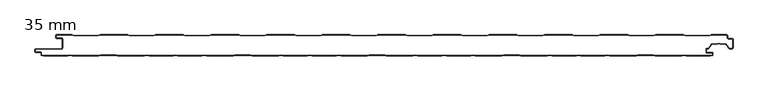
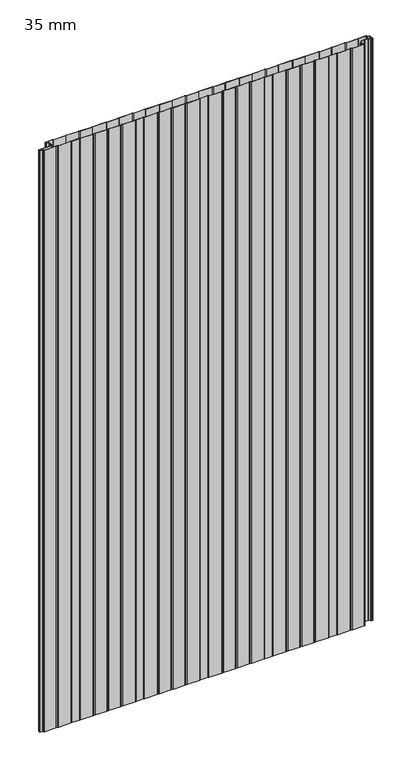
"""IFC4 building model written with IfcOpenShell, lengths in millimetres: plate geometry, HIANSA PANEL - H20.F02.002-PANELES DE FACHADA VERTICAL - PANEL PERFILADO - Panel de Muro Cortina : 35 mm."""

import ifcopenshell
import ifcopenshell.guid

model = None  # the IFC model being written
_history = None  # IfcOwnerHistory: only IFC2X3 demands one
_inside = {}  # id of a spatial element -> (the spatial element, [elements in it])
_under = {}  # id of a project, library or spatial element -> (it, [spatial elements below it])
_declared = {}  # id of a project -> (the project, [libraries it declares])
_typed = {}  # id of a type object -> (the type object, [elements of that type])
_made_of = {}  # id of a material, layer set ... -> (it, [elements and type objects made of it])


def new_model(schema):
    """Start an empty IFC model of exactly this schema.

    Asked for "IFC4X3", IfcOpenShell would pick the latest addendum, in which some entities
    have other attributes; the version numbers below select the first issue.
    IFC2X3 requires an IfcOwnerHistory on every rooted entity: one is made here for all.
    """
    global model, _history
    if schema == "IFC4X3":
        model = ifcopenshell.file(schema_version=(4, 3, 0, 0))
    else:
        model = ifcopenshell.file(schema=schema)
    _inside.clear()
    _under.clear()
    _declared.clear()
    _typed.clear()
    _made_of.clear()
    _history = None
    if model.schema == "IFC2X3":
        org = make("IfcOrganization", Name="unknown")
        user = make(
            "IfcPersonAndOrganization",
            ThePerson=make("IfcPerson", FamilyName="unknown"),
            TheOrganization=org,
        )
        app = make(
            "IfcApplication",
            ApplicationDeveloper=org,
            Version="unknown",
            ApplicationFullName="unknown",
            ApplicationIdentifier="unknown",
        )
        _history = make(
            "IfcOwnerHistory",
            OwningUser=user,
            OwningApplication=app,
            ChangeAction="ADDED",
            CreationDate=0,
        )
    return model


def make(cls, **values):
    """One entity of the class cls with the attributes given. An attribute that is None is left unset."""
    return model.create_entity(
        cls, **{name: value for name, value in values.items() if value is not None}
    )


def rooted(cls, **values):
    """An entity with a GlobalId (a new one), such as an element, a storey or a relation."""
    return make(cls, GlobalId=ifcopenshell.guid.new(), OwnerHistory=_history, **values)


def si_unit(unit_type, name, prefix=None):
    """IfcSIUnit, for example si_unit("LENGTHUNIT", "METRE", prefix="MILLI")."""
    return make("IfcSIUnit", UnitType=unit_type, Prefix=prefix, Name=name)


def assignment(units):
    """IfcUnitAssignment: the units of a project."""
    return None if units is None else make("IfcUnitAssignment", Units=units)


def point(xyz):
    """IfcCartesianPoint."""
    return None if xyz is None else make("IfcCartesianPoint", Coordinates=xyz)


def direction(xyz):
    """IfcDirection."""
    return None if xyz is None else make("IfcDirection", DirectionRatios=xyz)


def frame(location, z_axis=None, x_axis=None):
    """IfcAxis2Placement3D, a coordinate frame: its origin and axes. An axis left out is left unset."""
    return make(
        "IfcAxis2Placement3D",
        Location=point(location),
        Axis=direction(z_axis),
        RefDirection=direction(x_axis),
    )


def frame_2d(location, x_axis=None):
    """IfcAxis2Placement2D, a coordinate frame in the plane: its origin and x axis."""
    return make(
        "IfcAxis2Placement2D", Location=point(location), RefDirection=direction(x_axis)
    )


def origin():
    """The frame at (0, 0, 0) with its axes left unset."""
    return frame((0.0, 0.0, 0.0))


def origin_with_axes():
    """The frame at (0, 0, 0) with the z axis (0, 0, 1) and the x axis (1, 0, 0) written out."""
    return frame((0.0, 0.0, 0.0), z_axis=(0.0, 0.0, 1.0), x_axis=(1.0, 0.0, 0.0))


def place(relative_to, where):
    """IfcLocalPlacement: puts the frame where relative to a parent placement (None: the world)."""
    return make(
        "IfcLocalPlacement", PlacementRelTo=relative_to, RelativePlacement=where
    )


def context(
    kind, dimensions, precision=None, world=None, true_north=None, identifier=None
):
    """IfcGeometricRepresentationContext, for example the 3D "Model" context."""
    return make(
        "IfcGeometricRepresentationContext",
        ContextIdentifier=identifier,
        ContextType=kind,
        CoordinateSpaceDimension=dimensions,
        Precision=precision,
        WorldCoordinateSystem=world,
        TrueNorth=true_north,
    )


def project(units=None, contexts=None):
    """IfcProject with its units and contexts."""
    return rooted(
        "IfcProject",
        Name="project",
        RepresentationContexts=contexts,
        UnitsInContext=assignment(units),
    )


def spatial(cls, under=None, at=None, **own):
    """A site, building, storey or space (cls), placed at a placement, below another one or the project."""
    s = rooted(cls, ObjectPlacement=at, **own)
    if under is not None:
        _under.setdefault(under.id(), (under, []))[1].append(s)
    return s


def polyline(points):
    """IfcPolyline through the points."""
    return make("IfcPolyline", Points=[point(p) for p in points])


def circle_curve(where, radius):
    """IfcCircle in the frame where."""
    return make("IfcCircle", Position=where, Radius=radius)


def trimmed(basis, trim1, trim2, sense, master):
    """IfcTrimmedCurve: the piece of a basis curve between two trims."""
    return make(
        "IfcTrimmedCurve",
        BasisCurve=basis,
        Trim1=trim1,
        Trim2=trim2,
        SenseAgreement=sense,
        MasterRepresentation=master,
    )


def segment(curve, same_sense, transition):
    """IfcCompositeCurveSegment."""
    return make(
        "IfcCompositeCurveSegment",
        Transition=transition,
        SameSense=same_sense,
        ParentCurve=curve,
    )


def composite_curve(segments, self_intersect=None):
    """IfcCompositeCurve: segments joined end to end."""
    return make("IfcCompositeCurve", Segments=segments, SelfIntersect=self_intersect)


def outline(outer, holes=None, kind="AREA"):
    """IfcArbitraryClosedProfileDef: a profile drawn as a closed curve; with holes, ...WithVoids."""
    if holes is None:
        return make("IfcArbitraryClosedProfileDef", ProfileType=kind, OuterCurve=outer)
    return make(
        "IfcArbitraryProfileDefWithVoids",
        ProfileType=kind,
        OuterCurve=outer,
        InnerCurves=holes,
    )


def extrude(swept, where, along, depth):
    """IfcExtrudedAreaSolid: the profile swept, set in the frame where, extruded along a direction by depth."""
    return make(
        "IfcExtrudedAreaSolid",
        SweptArea=swept,
        Position=where,
        ExtrudedDirection=direction(along),
        Depth=depth,
    )


def shape(context_of_items, identifier, shape_type, items):
    """IfcShapeRepresentation: the items that make up one representation, for example the "Body"."""
    return make(
        "IfcShapeRepresentation",
        ContextOfItems=context_of_items,
        RepresentationIdentifier=identifier,
        RepresentationType=shape_type,
        Items=items,
    )


def source(mapping_origin, context_of_items, identifier, shape_type, items):
    """IfcRepresentationMap: a shape defined once, which mapped items show again and again."""
    return make(
        "IfcRepresentationMap",
        MappingOrigin=mapping_origin,
        MappedRepresentation=shape(context_of_items, identifier, shape_type, items),
    )


def transform(
    local_origin,
    x_axis=None,
    y_axis=None,
    z_axis=None,
    scale=None,
    scale2=None,
    scale3=None,
    uniform=True,
):
    """IfcCartesianTransformationOperator3D, or its non-uniform kind. x_axis, y_axis, z_axis: its Axis1, 2, 3."""
    if uniform:
        return make(
            "IfcCartesianTransformationOperator3D",
            Axis1=direction(x_axis),
            Axis2=direction(y_axis),
            LocalOrigin=point(local_origin),
            Scale=scale,
            Axis3=direction(z_axis),
        )
    return make(
        "IfcCartesianTransformationOperator3DnonUniform",
        Axis1=direction(x_axis),
        Axis2=direction(y_axis),
        LocalOrigin=point(local_origin),
        Scale=scale,
        Axis3=direction(z_axis),
        Scale2=scale2,
        Scale3=scale3,
    )


def mapped(mapping_source, mapping_target):
    """IfcMappedItem: shows the shape of a source again, moved by a transform."""
    return make(
        "IfcMappedItem", MappingSource=mapping_source, MappingTarget=mapping_target
    )


def made_of(thing, what):
    """Note that an element or type object is made of a material, layer set ...; save() writes the relation."""
    if what is not None:
        _made_of.setdefault(what.id(), (what, []))[1].append(thing)
    return thing


def element(
    cls,
    number,
    at=None,
    inside=None,
    cuts=None,
    type_object=None,
    material=None,
    context=None,
    identifier="Body",
    shape_type=None,
    held_by="IfcProductDefinitionShape",
    body=None,
    shapes=None,
    **own,
):
    """One element of the class cls, such as IfcWall. Its Tag is "e" and its number.

    at: its placement. inside: the storey or other place that contains it. cuts: it is an
    opening in that element (IfcRelVoidsElement). A single representation is given by context,
    identifier, shape_type and body (its items); several are given by shapes. held_by: the class
    of the entity that holds the representations. save() writes the other relations.
    """
    e = rooted(cls, Tag="e%d" % number, ObjectPlacement=at, **own)
    if body is not None:
        shapes = [shape(context, identifier, shape_type, body)]
    if shapes is not None:
        e.Representation = make(held_by, Representations=shapes)
    if inside is not None:
        _inside.setdefault(inside.id(), (inside, []))[1].append(e)
    if cuts is not None:
        rooted(
            "IfcRelVoidsElement", RelatingBuildingElement=cuts, RelatedOpeningElement=e
        )
    if type_object is not None:
        _typed.setdefault(type_object.id(), (type_object, []))[1].append(e)
    return made_of(e, material)


def aggregate(whole, parts):
    """IfcRelAggregates: a whole, such as a stair, and the parts it consists of."""
    return rooted("IfcRelAggregates", RelatingObject=whole, RelatedObjects=parts)


def save(model, path):
    """Write the relations noted so far, then the file.

    IfcRelAggregates (storeys below a building ...), IfcRelContainedInSpatialStructure (elements
    in a storey), IfcRelDefinesByType, IfcRelAssociatesMaterial and IfcRelDeclares: one each for
    every whole, place, type object, material and project.
    """
    for whole, parts in _under.values():
        aggregate(whole, parts)
    for where, things in _inside.values():
        rooted(
            "IfcRelContainedInSpatialStructure",
            RelatedElements=things,
            RelatingStructure=where,
        )
    for kind, things in _typed.values():
        rooted("IfcRelDefinesByType", RelatedObjects=things, RelatingType=kind)
    for what, things in _made_of.values():
        rooted("IfcRelAssociatesMaterial", RelatedObjects=things, RelatingMaterial=what)
    for by, libraries in _declared.values():
        rooted("IfcRelDeclares", RelatingContext=by, RelatedDefinitions=libraries)
    model.write(path)


def plate_35_mm_552d9d67(model_context):
    return source(origin(), model_context, "Body", "SweptSolid", [
        extrude(outline(polyline([(573.0810465, -18.7821941), (573.0810465, -12.9009472), (573.5810465, -13.7002592), (573.5810465, -18.010534), (573.0810465, -18.7821941)])), origin_with_axes(), (0.0, 0.0, 1.0), 2100.0),
        extrude(outline(polyline([(-524.3789535, -12.9205789), (-524.3789535, -18.8267994), (-524.8789535, -18.010534), (-524.8789535, -13.7002592), (-524.3789535, -12.9205789)])), origin_with_axes(), (0.0, 0.0, 1.0), 2100.0),
        extrude(outline(composite_curve([segment(polyline([(-506.0322682, -0.9999995), (-466.0322682, -0.9999995), (-463.0322682, 5e-07), (-418.0322682, 5e-07), (-415.0322682, -0.9999995), (-375.0322682, -0.9999995), (-372.0322682, 5e-07), (-327.0322682, 5e-07), (-324.0322682, -0.9999995), (-284.0322682, -0.9999995), (-281.0322682, 5e-07), (-236.0322682, 5e-07), (-233.0322682, -0.9999995), (-193.0322682, -0.9999995), (-190.0322682, 5e-07), (-145.0322682, 5e-07), (-142.0322682, -0.9999995), (-102.0322682, -0.9999995), (-99.0322682, 5e-07), (-54.0322682, 5e-07), (-51.0322682, -0.9999995), (-11.0322682, -0.9999995), (-8.0322682, 5e-07), (36.9677318, 5e-07), (39.9677318, -0.9999995), (79.9677318, -0.9999995), (82.9677318, 5e-07), (127.9677318, 5e-07), (130.9677318, -0.9999995), (170.9677318, -0.9999995), (173.9677318, 5e-07), (218.9677318, 5e-07), (221.9677318, -0.9999995), (261.9677318, -0.9999995), (264.9677318, 5e-07), (309.9677318, 5e-07), (312.9677318, -0.9999995), (352.9677318, -0.9999995), (355.9677318, 5e-07), (400.9677318, 5e-07), (403.9677318, -0.9999995), (443.9677318, -0.9999995), (446.9677318, 5e-07), (491.9677318, 5e-07), (494.9677318, -0.9999995), (534.9677318, -0.9999995), (537.9677318, 5e-07), (562.9277318, 5e-07)]), True, "CONTINUOUS"), segment(trimmed(circle_curve(frame_2d((562.9277318, -1.4999995)), 1.5), [point((562.9277318, 5e-07))], [point((564.4277318, -1.5000018))], False, "CARTESIAN"), True, "CONTINUOUS"), segment(polyline([(564.4277318, -1.5000018), (564.4277269, -4.746003)]), True, "CONTINUOUS"), segment(trimmed(circle_curve(frame_2d((565.9317269, -4.7460053)), 1.504), [point((564.4277269, -4.746003))], [point((565.9317269, -6.2500053))], True, "CARTESIAN"), True, "CONTINUOUS"), segment(polyline([(565.9317269, -6.2500053), (572.0810464, -6.2500053)]), True, "CONTINUOUS"), segment(trimmed(circle_curve(frame_2d((572.0810464, -7.7500053)), 1.5), [point((572.0810464, -6.2500053))], [point((573.5810464, -7.7500053))], False, "CARTESIAN"), True, "CONTINUOUS"), segment(polyline([(573.5810464, -7.7500053), (573.5810464, -13.7002592), (573.0810464, -12.9009472), (573.0810464, -7.7499995)]), True, "CONTINUOUS"), segment(trimmed(circle_curve(frame_2d((572.0810464, -7.7499995)), 1.0), [point((573.0810464, -7.7499995))], [point((572.0810464, -6.7499995))], True, "CARTESIAN"), True, "CONTINUOUS"), segment(polyline([(572.0810464, -6.7499995), (565.9317318, -6.7499995)]), True, "CONTINUOUS"), segment(trimmed(circle_curve(frame_2d((565.9317318, -4.7459995)), 2.004), [point((565.9317318, -6.7499995))], [point((563.9277318, -4.7459995))], False, "CARTESIAN"), True, "CONTINUOUS"), segment(polyline([(563.9277318, -4.7459995), (563.9277318, -1.4999995)]), True, "CONTINUOUS"), segment(trimmed(circle_curve(frame_2d((562.9277318, -1.4999995)), 1.0), [point((563.9277318, -1.4999995))], [point((562.9277318, -0.4999995))], True, "CARTESIAN"), True, "CONTINUOUS"), segment(polyline([(562.9277318, -0.4999995), (538.0488706, -0.4999995), (535.0488706, -1.4999995), (494.8865929, -1.4999995), (491.8865929, -0.4999995), (447.0488706, -0.4999995), (444.0488706, -1.4999995), (403.8865929, -1.4999995), (400.8865929, -0.4999995), (356.0488706, -0.4999995), (353.0488706, -1.4999995), (312.8865929, -1.4999995), (309.8865929, -0.4999995), (265.0488706, -0.4999995), (262.0488706, -1.4999995), (221.8865929, -1.4999995), (218.8865929, -0.4999995), (174.0488706, -0.4999995), (171.0488706, -1.4999995), (130.8865929, -1.4999995), (127.8865929, -0.4999995), (83.0488706, -0.4999995), (80.0488706, -1.4999995), (39.8865929, -1.4999995), (36.8865929, -0.4999995), (-7.9511294, -0.4999995), (-10.9511294, -1.4999995), (-51.1134071, -1.4999995), (-54.1134071, -0.4999995), (-98.9511294, -0.4999995), (-101.9511294, -1.4999995), (-142.1134071, -1.4999995), (-145.1134071, -0.4999995), (-189.9511294, -0.4999995), (-192.9511294, -1.4999995), (-233.1134071, -1.4999995), (-236.1134071, -0.4999995), (-280.9511294, -0.4999995), (-283.9511294, -1.4999995), (-324.1134071, -1.4999995), (-327.1134071, -0.4999995), (-371.9511294, -0.4999995), (-374.9511294, -1.4999995), (-415.1134071, -1.4999995), (-418.1134071, -0.4999995), (-462.9511294, -0.4999995), (-465.9511294, -1.4999995), (-506.1134071, -1.4999995), (-509.1134071, -0.4999995), (-534.0322682, -0.4999995)]), True, "CONTINUOUS"), segment(trimmed(circle_curve(frame_2d((-534.0322682, -1.4999995)), 1.0), [point((-534.0322682, -0.4999995))], [point((-535.0322682, -1.4999976))], True, "CARTESIAN"), True, "CONTINUOUS"), segment(polyline([(-535.0322682, -1.4999976), (-535.0322739, -4.4999976)]), True, "CONTINUOUS"), segment(trimmed(circle_curve(frame_2d((-534.0322682, -4.4999995)), 1.0000057), [point((-535.0322739, -4.4999976))], [point((-534.0322682, -5.5000053))], True, "CARTESIAN"), True, "CONTINUOUS"), segment(polyline([(-534.0322682, -5.5000053), (-526.4189536, -5.5000053)]), True, "CONTINUOUS"), segment(trimmed(circle_curve(frame_2d((-526.4189536, -7.5400053)), 2.04), [point((-526.4189536, -5.5000053))], [point((-524.3789536, -7.5400053))], False, "CARTESIAN"), True, "CONTINUOUS"), segment(polyline([(-524.3789536, -7.5400053), (-524.3789536, -12.9205789), (-524.8789536, -13.7002592), (-524.8789536, -7.5399995)]), True, "CONTINUOUS"), segment(trimmed(circle_curve(frame_2d((-526.4189536, -7.5399995)), 1.54), [point((-524.8789536, -7.5399995))], [point((-526.4189536, -5.9999995))], True, "CARTESIAN"), True, "CONTINUOUS"), segment(polyline([(-526.4189536, -5.9999995), (-534.0322682, -5.9999995)]), True, "CONTINUOUS"), segment(trimmed(circle_curve(frame_2d((-534.0322682, -4.4999995)), 1.5), [point((-534.0322682, -5.9999995))], [point((-535.5322682, -4.4999995))], False, "CARTESIAN"), True, "CONTINUOUS"), segment(polyline([(-535.5322682, -4.4999995), (-535.5322682, -1.4999995)]), True, "CONTINUOUS"), segment(trimmed(circle_curve(frame_2d((-534.0322682, -1.4999995)), 1.5), [point((-535.5322682, -1.4999995))], [point((-534.0322682, 5e-07))], False, "CARTESIAN"), True, "CONTINUOUS"), segment(polyline([(-534.0322682, 5e-07), (-509.0322682, 5e-07), (-506.0322682, -0.9999995)]), True, "CONTINUOUS")], self_intersect=False)), origin_with_axes(), (0.0, 0.0, 1.0), 2100.0),
        extrude(outline(composite_curve([segment(polyline([(-526.9188291, -23.8776596), (-569.2000002, -23.8776596), (-569.2000002, -28.6276596), (-560.5344902, -28.6276596)]), True, "CONTINUOUS"), segment(trimmed(circle_curve(frame_2d((-560.5344902, -30.1276596)), 1.5), [point((-560.5344902, -28.6276596))], [point((-559.0344902, -30.1276596))], False, "CARTESIAN"), True, "CONTINUOUS"), segment(polyline([(-559.0344902, -30.1276596), (-559.0344902, -32.5178943)]), True, "CONTINUOUS"), segment(trimmed(circle_curve(frame_2d((-557.6355327, -32.5178943)), 1.3989577), [point((-559.0344902, -32.5178943))], [point((-557.9748298, -33.8750826))], True, "CARTESIAN"), True, "CONTINUOUS"), segment(polyline([(-557.9748298, -33.8750826), (-555.4751594, -34.5), (-516.3760428, -34.5), (-512.31449, -33.4846118), (-508.2529372, -34.5), (-465.1734067, -34.5), (-462.1734067, -33.5), (-436.899129, -33.5), (-433.899129, -34.5), (-390.8195984, -34.5), (-386.7580456, -33.4846118), (-382.6964928, -34.5), (-343.5973762, -34.5), (-339.5358234, -33.4846118), (-335.4742706, -34.5), (-296.375154, -34.5), (-292.3136012, -33.4846118), (-288.2520484, -34.5), (-245.1725179, -34.5), (-242.1725179, -33.5), (-216.8982402, -33.5), (-213.8982402, -34.5), (-170.8187096, -34.5), (-166.7571568, -33.4846118), (-162.695604, -34.5), (-123.5964874, -34.5), (-119.5349346, -33.4846118), (-115.4733818, -34.5), (-76.3742652, -34.5), (-72.3127124, -33.4846118), (-68.2511596, -34.5), (-25.1716291, -34.5), (-22.1716291, -33.5), (3.1026486, -33.5), (6.1026486, -34.5), (49.1821792, -34.5), (53.243732, -33.4846118), (57.3052848, -34.5), (96.4044014, -34.5), (100.4659542, -33.4846118), (104.527507, -34.5), (143.6266236, -34.5), (147.6881764, -33.4846118), (151.7497292, -34.5), (194.8292597, -34.5), (197.8292597, -33.5), (223.1035374, -33.5), (226.1035374, -34.5), (269.183068, -34.5), (273.2446208, -33.4846118), (277.3061736, -34.5), (316.4052902, -34.5), (320.466843, -33.4846118), (324.5283958, -34.5), (363.6275124, -34.5), (367.6890652, -33.4846118), (371.750618, -34.5), (414.8301485, -34.5), (417.8301485, -33.5), (443.1044262, -33.5), (446.1044262, -34.5), (489.1839568, -34.5), (493.2455096, -33.4846118), (497.3070624, -34.5), (536.406179, -34.5), (538.9050596, -33.8752798)]), True, "CONTINUOUS"), segment(trimmed(circle_curve(frame_2d((538.5655098, -32.5170803)), 1.4), [point((538.9050596, -33.8752798))], [point((539.9655098, -32.5170803))], True, "CARTESIAN"), True, "CONTINUOUS"), segment(polyline([(539.9655098, -32.5170803), (539.9655098, -29.8776596), (530.7999998, -29.8776596)]), True, "CONTINUOUS"), segment(trimmed(circle_curve(frame_2d((530.7999998, -28.3776596)), 1.5), [point((530.7999998, -29.8776596))], [point((529.2999998, -28.3776596))], False, "CARTESIAN"), True, "CONTINUOUS"), segment(polyline([(529.2999998, -28.3776596), (529.2999998, -24.1276596)]), True, "CONTINUOUS"), segment(trimmed(circle_curve(frame_2d((530.7999998, -24.1276596)), 1.5), [point((529.2999998, -24.1276596))], [point((530.7999998, -22.6276596))], False, "CARTESIAN"), True, "CONTINUOUS"), segment(polyline([(530.7999998, -22.6276596), (532.401303, -22.6276596)]), True, "CONTINUOUS"), segment(trimmed(circle_curve(frame_2d((532.401303, -21.1276596)), 1.5), [point((532.401303, -22.6276596))], [point((533.630031, -21.9880243))], True, "CARTESIAN"), True, "CONTINUOUS"), segment(polyline([(533.630031, -21.9880243), (537.8715505, -15.9305067)]), True, "CONTINUOUS"), segment(trimmed(circle_curve(frame_2d((539.5098546, -17.0776596)), 2.0), [point((537.8715505, -15.9305067))], [point((539.5098546, -15.0776596))], False, "CARTESIAN"), True, "CONTINUOUS"), segment(polyline([(539.5098546, -15.0776596), (548.6071795, -15.0776596), (549.7999998, -14.3889845)]), True, "CONTINUOUS"), segment(trimmed(circle_curve(frame_2d((550.2999998, -15.2550099)), 1.0), [point((549.7999998, -14.3889845))], [point((550.7999998, -14.3889845))], False, "CARTESIAN"), True, "CONTINUOUS"), segment(polyline([(550.7999998, -14.3889845), (551.9928202, -15.0776596), (561.0901451, -15.0776596)]), True, "CONTINUOUS"), segment(trimmed(circle_curve(frame_2d((561.0901451, -17.0776596)), 2.0), [point((561.0901451, -15.0776596))], [point((562.7284492, -15.9305067))], False, "CARTESIAN"), True, "CONTINUOUS"), segment(polyline([(562.7284492, -15.9305067), (566.9699686, -21.9880243)]), True, "CONTINUOUS"), segment(trimmed(circle_curve(frame_2d((568.1986967, -21.1276596)), 1.5), [point((566.9699686, -21.9880243))], [point((568.1986967, -22.6276596))], True, "CARTESIAN"), True, "CONTINUOUS"), segment(polyline([(568.1986967, -22.6276596), (571.5810464, -22.6276596)]), True, "CONTINUOUS"), segment(trimmed(circle_curve(frame_2d((571.5810464, -21.1276596)), 1.5), [point((571.5810464, -22.6276596))], [point((573.0810464, -21.1276596))], True, "CARTESIAN"), True, "CONTINUOUS"), segment(polyline([(573.0810464, -21.1276596), (573.0810464, -18.7821941), (573.5810464, -18.010534), (573.5810464, -21.1276596)]), True, "CONTINUOUS"), segment(trimmed(circle_curve(frame_2d((571.5810464, -21.1276596)), 2.0), [point((573.5810464, -21.1276596))], [point((571.5810464, -23.1276596))], False, "CARTESIAN"), True, "CONTINUOUS"), segment(polyline([(571.5810464, -23.1276596), (568.1986967, -23.1276596)]), True, "CONTINUOUS"), segment(trimmed(circle_curve(frame_2d((568.1986967, -21.1276596)), 2.0), [point((568.1986967, -23.1276596))], [point((566.5603926, -22.2748125))], False, "CARTESIAN"), True, "CONTINUOUS"), segment(polyline([(566.5603926, -22.2748125), (562.3188732, -16.2172949)]), True, "CONTINUOUS"), segment(trimmed(circle_curve(frame_2d((561.0901451, -17.0776596)), 1.5), [point((562.3188732, -16.2172949))], [point((561.0901451, -15.5776596))], True, "CARTESIAN"), True, "CONTINUOUS"), segment(polyline([(561.0901451, -15.5776596), (551.8588456, -15.5776596), (550.2999998, -14.6776596), (548.7411541, -15.5776596), (539.5098546, -15.5776596)]), True, "CONTINUOUS"), segment(trimmed(circle_curve(frame_2d((539.5098546, -17.0776596)), 1.5), [point((539.5098546, -15.5776596))], [point((538.2811265, -16.2172949))], True, "CARTESIAN"), True, "CONTINUOUS"), segment(polyline([(538.2811265, -16.2172949), (534.0396071, -22.2748125)]), True, "CONTINUOUS"), segment(trimmed(circle_curve(frame_2d((532.401303, -21.1276596)), 2.0), [point((534.0396071, -22.2748125))], [point((532.401303, -23.1276596))], False, "CARTESIAN"), True, "CONTINUOUS"), segment(polyline([(532.401303, -23.1276596), (530.7999998, -23.1276596)]), True, "CONTINUOUS"), segment(trimmed(circle_curve(frame_2d((530.7999998, -24.1276596)), 1.0), [point((530.7999998, -23.1276596))], [point((529.7999998, -24.1276596))], True, "CARTESIAN"), True, "CONTINUOUS"), segment(polyline([(529.7999998, -24.1276596), (529.7999998, -28.3776596)]), True, "CONTINUOUS"), segment(trimmed(circle_curve(frame_2d((530.7999998, -28.3776596)), 1.0), [point((529.7999998, -28.3776596))], [point((530.7999998, -29.3776596))], True, "CARTESIAN"), True, "CONTINUOUS"), segment(polyline([(530.7999998, -29.3776596), (539.4655098, -29.3776596)]), True, "CONTINUOUS"), segment(trimmed(circle_curve(frame_2d((539.4655098, -30.3776596)), 1.0), [point((539.4655098, -29.3776596))], [point((540.4655098, -30.3776596))], False, "CARTESIAN"), True, "CONTINUOUS"), segment(polyline([(540.4655098, -30.3776596), (540.4655098, -32.5170803)]), True, "CONTINUOUS"), segment(trimmed(circle_curve(frame_2d((538.5655098, -32.5170803)), 1.9), [point((540.4655098, -32.5170803))], [point((539.0263275, -34.3603511))], False, "CARTESIAN"), True, "CONTINUOUS"), segment(polyline([(539.0263275, -34.3603511), (536.4677318, -35.0), (497.2455096, -35.0), (493.2455096, -34.0), (489.2455096, -35.0), (446.0232874, -35.0), (443.0232874, -34.0), (417.9112874, -34.0), (414.9112874, -35.0), (371.6890652, -35.0), (367.6890652, -34.0), (363.6890652, -35.0), (324.466843, -35.0), (320.466843, -34.0), (316.466843, -35.0), (277.2446208, -35.0), (273.2446208, -34.0), (269.2446208, -35.0), (226.0223986, -35.0), (223.0223986, -34.0), (197.9103986, -34.0), (194.9103986, -35.0), (151.6881764, -35.0), (147.6881764, -34.0), (143.6881764, -35.0), (104.4659542, -35.0), (100.4659542, -34.0), (96.4659542, -35.0), (57.243732, -35.0), (53.243732, -34.0), (49.243732, -35.0), (6.0215098, -35.0), (3.0215098, -34.0), (-22.0904902, -34.0), (-25.0904902, -35.0), (-68.3127124, -35.0), (-72.3127124, -34.0), (-76.3127124, -35.0), (-115.5349346, -35.0), (-119.5349346, -34.0), (-123.5349346, -35.0), (-162.7571568, -35.0), (-166.7571568, -34.0), (-170.7571568, -35.0), (-213.979379, -35.0), (-216.979379, -34.0), (-242.091379, -34.0), (-245.091379, -35.0), (-288.3136012, -35.0), (-292.3136012, -34.0), (-296.3136012, -35.0), (-335.5358234, -35.0), (-339.5358234, -34.0), (-343.5358234, -35.0), (-382.7580456, -35.0), (-386.7580456, -34.0), (-390.7580456, -35.0), (-433.9802678, -35.0), (-436.9802678, -34.0), (-462.0922678, -34.0), (-465.0922678, -35.0), (-508.31449, -35.0), (-512.31449, -34.0), (-516.31449, -35.0), (-555.5367122, -35.0), (-558.0951211, -34.3603978)]), True, "CONTINUOUS"), segment(trimmed(circle_curve(frame_2d((-557.6342435, -32.5168877)), 1.9002467), [point((-558.0951211, -34.3603978))], [point((-559.5344902, -32.5168877))], False, "CARTESIAN"), True, "CONTINUOUS"), segment(polyline([(-559.5344902, -32.5168877), (-559.5344902, -30.1276596)]), True, "CONTINUOUS"), segment(trimmed(circle_curve(frame_2d((-560.5344902, -30.1276596)), 1.0), [point((-559.5344902, -30.1276596))], [point((-560.5344902, -29.1276596))], True, "CARTESIAN"), True, "CONTINUOUS"), segment(polyline([(-560.5344902, -29.1276596), (-568.7000002, -29.1276596)]), True, "CONTINUOUS"), segment(trimmed(circle_curve(frame_2d((-568.7000002, -28.1276596)), 1.0), [point((-568.7000002, -29.1276596))], [point((-569.7000002, -28.1276596))], False, "CARTESIAN"), True, "CONTINUOUS"), segment(polyline([(-569.7000002, -28.1276596), (-569.7000002, -24.3776596)]), True, "CONTINUOUS"), segment(trimmed(circle_curve(frame_2d((-568.7000002, -24.3776596)), 1.0), [point((-569.7000002, -24.3776596))], [point((-568.7000002, -23.3776596))], False, "CARTESIAN"), True, "CONTINUOUS"), segment(polyline([(-568.7000002, -23.3776596), (-526.9188291, -23.3776596)]), True, "CONTINUOUS"), segment(trimmed(circle_curve(frame_2d((-526.9188291, -21.3376596)), 2.04), [point((-526.9188291, -23.3776596))], [point((-524.8788291, -21.3375833))], True, "CARTESIAN"), True, "CONTINUOUS"), segment(polyline([(-524.8788291, -21.3375833), (-524.8789536, -18.010534), (-524.3788291, -18.8270027), (-524.3788291, -21.3376596)]), True, "CONTINUOUS"), segment(trimmed(circle_curve(frame_2d((-526.9188291, -21.3376596)), 2.54), [point((-524.3788291, -21.3376596))], [point((-526.9188291, -23.8776596))], False, "CARTESIAN"), True, "CONTINUOUS")], self_intersect=False)), origin_with_axes(), (0.0, 0.0, 1.0), 2100.0),
    ])


if __name__ == "__main__":
    model = new_model("IFC4")
    model_context = context("Model", 3, world=origin())
    ifc_project = project(units=[si_unit("LENGTHUNIT", "METRE", prefix="MILLI")], contexts=[model_context])
    site = spatial("IfcSite", under=ifc_project)
    building = spatial("IfcBuilding", under=site)
    placement = place(None, origin())
    plate_35_mm_shape = plate_35_mm_552d9d67(model_context)
    element("IfcPlate", 1, ObjectType="HIANSA PANEL - H20.F02.002-PANELES DE FACHADA VERTICAL - PANEL PERFILADO - Panel de Muro Cortina : 35 mm", at=placement, inside=building, context=model_context, shape_type="MappedRepresentation", body=[
        mapped(plate_35_mm_shape, transform((0.0, 0.0, 0.0), x_axis=(1.0, 0.0, 0.0), y_axis=(0.0, 1.0, 0.0), z_axis=(0.0, 0.0, 1.0))),
    ])
    save(model, "model.ifc")
